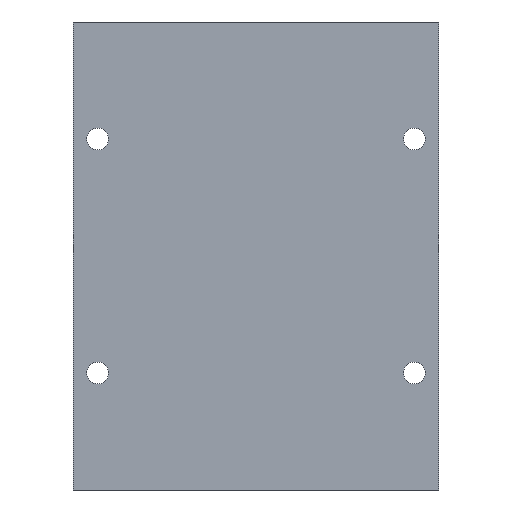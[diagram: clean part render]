
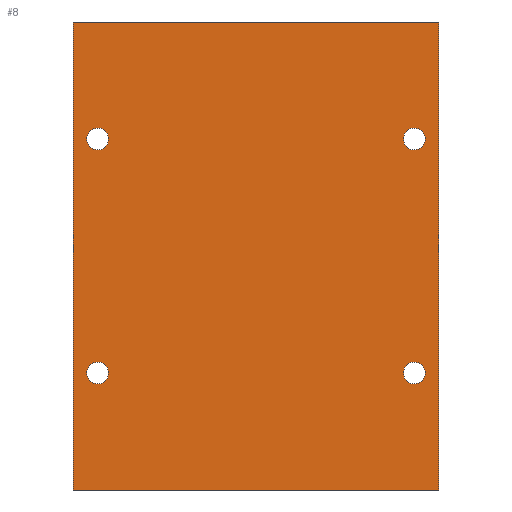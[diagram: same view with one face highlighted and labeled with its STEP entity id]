
A CAD part, front view. The second image highlights one B-rep face of the part: STEP entity #8.
In plain terms, the highlighted planar face has unit normal (0, -1, 0).
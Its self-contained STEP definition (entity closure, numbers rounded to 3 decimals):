
#3 = VERTEX_POINT ( 'NONE', #291 ) ;
#7 = CARTESIAN_POINT ( 'NONE',  ( 32.5, -3., 24. ) ) ;
#8 = ADVANCED_FACE ( 'NONE', ( #255, #379, #286, #241, #515 ), #155, .F. ) ;
#15 = EDGE_CURVE ( 'NONE', #616, #3, #127, .T. ) ;
#20 = ORIENTED_EDGE ( 'NONE', *, *, #315, .T. ) ;
#24 = CIRCLE ( 'NONE', #627, 2.25 ) ;
#26 = CIRCLE ( 'NONE', #509, 2.25 ) ;
#27 = CARTESIAN_POINT ( 'NONE',  ( -37.5, -3., 96. ) ) ;
#32 = DIRECTION ( 'NONE',  ( 0., 1., 0. ) ) ;
#55 = DIRECTION ( 'NONE',  ( 0., 1., 0. ) ) ;
#56 = DIRECTION ( 'NONE',  ( 0., 0., 1. ) ) ;
#60 = VERTEX_POINT ( 'NONE', #397 ) ;
#67 = DIRECTION ( 'NONE',  ( 0., 0., 1. ) ) ;
#71 = EDGE_LOOP ( 'NONE', ( #543, #283 ) ) ;
#80 = AXIS2_PLACEMENT_3D ( 'NONE', #508, #419, #606 ) ;
#86 = CARTESIAN_POINT ( 'NONE',  ( 37.5, -3., 96. ) ) ;
#96 = ORIENTED_EDGE ( 'NONE', *, *, #506, .T. ) ;
#112 = EDGE_CURVE ( 'NONE', #149, #616, #336, .T. ) ;
#113 = DIRECTION ( 'NONE',  ( 0., 0., -1. ) ) ;
#116 = DIRECTION ( 'NONE',  ( 0., 1., 0. ) ) ;
#123 = EDGE_LOOP ( 'NONE', ( #548, #519 ) ) ;
#127 = LINE ( 'NONE', #531, #165 ) ;
#135 = DIRECTION ( 'NONE',  ( 0., 1., 0. ) ) ;
#139 = VERTEX_POINT ( 'NONE', #494 ) ;
#146 = VERTEX_POINT ( 'NONE', #391 ) ;
#149 = VERTEX_POINT ( 'NONE', #256 ) ;
#155 = PLANE ( 'NONE',  #331 ) ;
#163 = ORIENTED_EDGE ( 'NONE', *, *, #518, .T. ) ;
#164 = CIRCLE ( 'NONE', #238, 2.25 ) ;
#165 = VECTOR ( 'NONE', #436, 1000. ) ;
#188 = VERTEX_POINT ( 'NONE', #491 ) ;
#189 = VECTOR ( 'NONE', #113, 1000. ) ;
#199 = CARTESIAN_POINT ( 'NONE',  ( 37.5, -3., 96. ) ) ;
#215 = CIRCLE ( 'NONE', #369, 2.25 ) ;
#217 = EDGE_CURVE ( 'NONE', #578, #576, #164, .T. ) ;
#224 = CIRCLE ( 'NONE', #80, 2.25 ) ;
#227 = DIRECTION ( 'NONE',  ( 0., 1., 0. ) ) ;
#229 = ORIENTED_EDGE ( 'NONE', *, *, #421, .T. ) ;
#238 = AXIS2_PLACEMENT_3D ( 'NONE', #7, #55, #56 ) ;
#241 = FACE_BOUND ( 'NONE', #472, .T. ) ;
#255 = FACE_BOUND ( 'NONE', #71, .T. ) ;
#256 = CARTESIAN_POINT ( 'NONE',  ( -37.5, -3., 96. ) ) ;
#259 = DIRECTION ( 'NONE',  ( 1., 0., 0. ) ) ;
#269 = CARTESIAN_POINT ( 'NONE',  ( -32.5, -3., 74.25 ) ) ;
#275 = VERTEX_POINT ( 'NONE', #597 ) ;
#277 = EDGE_CURVE ( 'NONE', #502, #275, #459, .T. ) ;
#283 = ORIENTED_EDGE ( 'NONE', *, *, #362, .T. ) ;
#285 = EDGE_CURVE ( 'NONE', #384, #146, #24, .T. ) ;
#286 = FACE_BOUND ( 'NONE', #123, .T. ) ;
#287 = DIRECTION ( 'NONE',  ( 0., 0., 1. ) ) ;
#291 = CARTESIAN_POINT ( 'NONE',  ( 37.5, -3., 0. ) ) ;
#304 = VECTOR ( 'NONE', #259, 1000. ) ;
#308 = EDGE_CURVE ( 'NONE', #146, #384, #598, .T. ) ;
#309 = CARTESIAN_POINT ( 'NONE',  ( -32.5, -3., 24. ) ) ;
#312 = DIRECTION ( 'NONE',  ( 0., 1., 0. ) ) ;
#315 = EDGE_CURVE ( 'NONE', #149, #60, #335, .T. ) ;
#326 = ORIENTED_EDGE ( 'NONE', *, *, #112, .F. ) ;
#329 = DIRECTION ( 'NONE',  ( 0., 0., 1. ) ) ;
#331 = AXIS2_PLACEMENT_3D ( 'NONE', #199, #537, #582 ) ;
#335 = LINE ( 'NONE', #27, #189 ) ;
#336 = LINE ( 'NONE', #445, #304 ) ;
#354 = CARTESIAN_POINT ( 'NONE',  ( -32.5, -3., 24. ) ) ;
#362 = EDGE_CURVE ( 'NONE', #275, #502, #559, .T. ) ;
#365 = DIRECTION ( 'NONE',  ( 0., 0., 1. ) ) ;
#368 = DIRECTION ( 'NONE',  ( 1., 0., 0. ) ) ;
#369 = AXIS2_PLACEMENT_3D ( 'NONE', #517, #135, #287 ) ;
#379 = FACE_BOUND ( 'NONE', #623, .T. ) ;
#384 = VERTEX_POINT ( 'NONE', #553 ) ;
#386 = EDGE_LOOP ( 'NONE', ( #96, #545, #326, #20 ) ) ;
#391 = CARTESIAN_POINT ( 'NONE',  ( -32.5, -3., 21.75 ) ) ;
#393 = AXIS2_PLACEMENT_3D ( 'NONE', #354, #312, #500 ) ;
#397 = CARTESIAN_POINT ( 'NONE',  ( -37.5, -3., 0. ) ) ;
#404 = VECTOR ( 'NONE', #368, 1000. ) ;
#412 = CARTESIAN_POINT ( 'NONE',  ( -32.5, -3., 72. ) ) ;
#419 = DIRECTION ( 'NONE',  ( 0., 1., 0. ) ) ;
#421 = EDGE_CURVE ( 'NONE', #188, #139, #224, .T. ) ;
#436 = DIRECTION ( 'NONE',  ( 0., 0., -1. ) ) ;
#445 = CARTESIAN_POINT ( 'NONE',  ( 37.5, -3., 96. ) ) ;
#447 = DIRECTION ( 'NONE',  ( 0., 0., 1. ) ) ;
#459 = CIRCLE ( 'NONE', #535, 2.25 ) ;
#467 = CARTESIAN_POINT ( 'NONE',  ( 32.5, -3., 21.75 ) ) ;
#472 = EDGE_LOOP ( 'NONE', ( #583, #163 ) ) ;
#491 = CARTESIAN_POINT ( 'NONE',  ( 32.5, -3., 69.75 ) ) ;
#494 = CARTESIAN_POINT ( 'NONE',  ( 32.5, -3., 74.25 ) ) ;
#500 = DIRECTION ( 'NONE',  ( 0., 0., 1. ) ) ;
#502 = VERTEX_POINT ( 'NONE', #269 ) ;
#506 = EDGE_CURVE ( 'NONE', #60, #3, #568, .T. ) ;
#508 = CARTESIAN_POINT ( 'NONE',  ( 32.5, -3., 72. ) ) ;
#509 = AXIS2_PLACEMENT_3D ( 'NONE', #522, #573, #329 ) ;
#511 = CARTESIAN_POINT ( 'NONE',  ( 37.5, -3., 0. ) ) ;
#515 = FACE_OUTER_BOUND ( 'NONE', #386, .T. ) ;
#517 = CARTESIAN_POINT ( 'NONE',  ( 32.5, -3., 24. ) ) ;
#518 = EDGE_CURVE ( 'NONE', #576, #578, #215, .T. ) ;
#519 = ORIENTED_EDGE ( 'NONE', *, *, #308, .T. ) ;
#522 = CARTESIAN_POINT ( 'NONE',  ( 32.5, -3., 72. ) ) ;
#531 = CARTESIAN_POINT ( 'NONE',  ( 37.5, -3., 96. ) ) ;
#535 = AXIS2_PLACEMENT_3D ( 'NONE', #546, #116, #447 ) ;
#537 = DIRECTION ( 'NONE',  ( 0., 1., 0. ) ) ;
#543 = ORIENTED_EDGE ( 'NONE', *, *, #277, .T. ) ;
#545 = ORIENTED_EDGE ( 'NONE', *, *, #15, .F. ) ;
#546 = CARTESIAN_POINT ( 'NONE',  ( -32.5, -3., 72. ) ) ;
#548 = ORIENTED_EDGE ( 'NONE', *, *, #285, .T. ) ;
#553 = CARTESIAN_POINT ( 'NONE',  ( -32.5, -3., 26.25 ) ) ;
#559 = CIRCLE ( 'NONE', #563, 2.25 ) ;
#563 = AXIS2_PLACEMENT_3D ( 'NONE', #412, #227, #365 ) ;
#565 = EDGE_CURVE ( 'NONE', #139, #188, #26, .T. ) ;
#566 = CARTESIAN_POINT ( 'NONE',  ( 32.5, -3., 26.25 ) ) ;
#568 = LINE ( 'NONE', #511, #404 ) ;
#573 = DIRECTION ( 'NONE',  ( 0., 1., 0. ) ) ;
#576 = VERTEX_POINT ( 'NONE', #467 ) ;
#578 = VERTEX_POINT ( 'NONE', #566 ) ;
#582 = DIRECTION ( 'NONE',  ( -1., 0., 0. ) ) ;
#583 = ORIENTED_EDGE ( 'NONE', *, *, #217, .T. ) ;
#584 = ORIENTED_EDGE ( 'NONE', *, *, #565, .T. ) ;
#597 = CARTESIAN_POINT ( 'NONE',  ( -32.5, -3., 69.75 ) ) ;
#598 = CIRCLE ( 'NONE', #393, 2.25 ) ;
#606 = DIRECTION ( 'NONE',  ( 0., 0., 1. ) ) ;
#616 = VERTEX_POINT ( 'NONE', #86 ) ;
#623 = EDGE_LOOP ( 'NONE', ( #584, #229 ) ) ;
#627 = AXIS2_PLACEMENT_3D ( 'NONE', #309, #32, #67 ) ;
